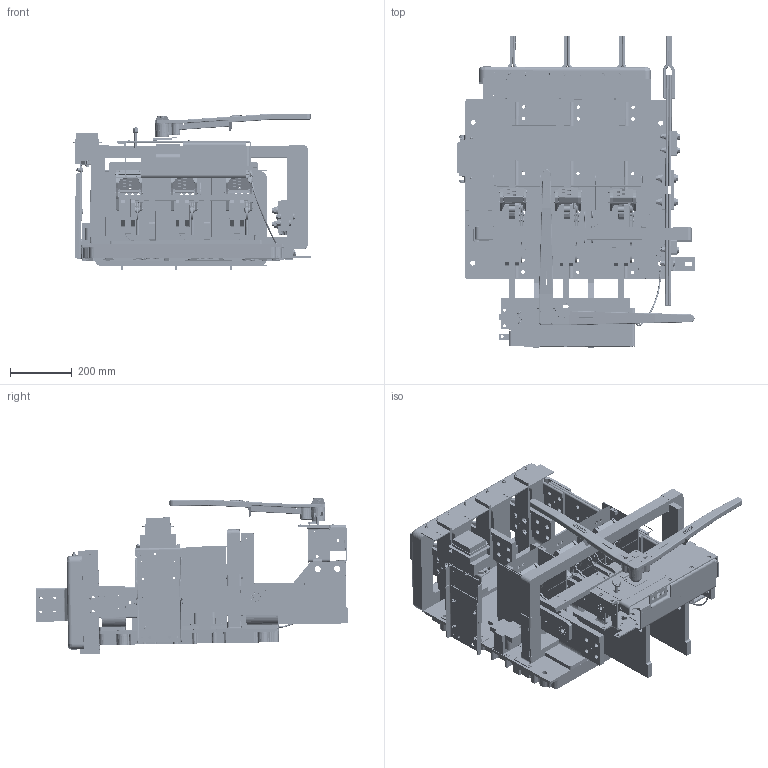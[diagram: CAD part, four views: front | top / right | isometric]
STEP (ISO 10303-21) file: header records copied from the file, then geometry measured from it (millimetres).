
FILE_DESCRIPTION(/* description */ (''),/* implementation_level */ '2;1');
FILE_NAME(/* name */ 'H:\switches\3d-templates\catalog-switches-iges-files\CATALOG-VLB3412AG60.stp',/* time_stamp */ '2022-03-16T10:58:04-05:00',/* author */ ('MKingston'),/* organization */ (''),/* preprocessor_version */ 'ST-DEVELOPER v18.1',/* originating_system */ 'Autodesk Inventor 2022',/* authorisation */ '');
FILE_SCHEMA (('AUTOMOTIVE_DESIGN { 1 0 10303 214 3 1 1 }'));
Products named in the file (113): vlb3412; 277-bf; 671-EBX; 671-CBX; 671-dbx; vlb-interpole-assy; vlb-interpole-right-side-assy; 256-b; 178-b; 178-c; 256-d; CATALOG-3000amp-blade-assy; 671-A; 671-B; 69-gc3; 67-fc3; 70-M; 67-j; ANSI/ASM B18.1.1 - 1/4 x 3/4; ANSI/ASM B18.1.1 - 3/16 x 11/16; 235-b; CATALOG-59-qd-arc-chute-assy; 50-ql; 50-qr; 59-qd-f; 363-a; 363-b; 59-QG; Bolted Connection; ANSI B18.6.3 - 8 - 32 x 3 1/2 SR HMS; ANSI B18.2.2 - 8 - 32, HMSNI; Bolted Connection_1; ANSI B18.6.3 - 8 - 32 x 1/2 SR HMS; Bolted Connection_2; ANSI B18.6.3 - 8 - 32 x 5/8 SR HMS; Bolted Connection_3; Bolted Connection_4; Unbrako - 1/4 x 1 1/2(2); 230-a; 246-f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
Assembly tree (238 placements, depth 4):
  vlb3412
    277-bf
    671-EBX  x3
    671-CBX  x3
    671-dbx  x3
    vlb-interpole-right-side-assy  x2
      256-b
      178-b
      178-c
    vlb-interpole-assy  x2
      256-b
      178-b
      178-c
    256-d
    CATALOG-3000amp-blade-assy  x3
      671-A
      671-B
      69-gc3
      67-fc3
      67-j
      70-M
      ANSI/ASM B18.1.1 - 1/4 x 3/4
      ANSI/ASM B18.1.1 - 3/16 x 11/16
    235-b
    CATALOG-59-qd-arc-chute-assy  x3
      50-ql
      50-qr
      59-qd-f
      363-a
      363-b
      59-QG
      Bolted Connection
        ANSI B18.6.3 - 8 - 32 x 3 1/2 SR HMS  x2
        ANSI B18.2.2 - 8 - 32, HMSNI  x2
      Bolted Connection_1
        ANSI B18.6.3 - 8 - 32 x 1/2 SR HMS  x2
      Bolted Connection_2
        ANSI B18.6.3 - 8 - 32 x 5/8 SR HMS  x2
      Bolted Connection_3
        Unbrako - 1/4 x 1 1/2(2)
      Bolted Connection_4
        Unbrako - 1/4 x 1 1/2(2)
    230-a
    246-f  x2
    256-c
    221-kpa
    452
    481-a
    bf-gfr-1-mounting-assembly
      277-L1B
      277-l2
      277-l3
      277-l4
      gfr-1
      Bolted Connection_5
        ANSI B18.22.1 - No. 10 - Type A  x4
        ASME B18.21.1 - No. 10. Carbon Steel, ETLWTB(1)  x4
        ANSI B18.6.3 - 10 - 32 x 3/4 SR HMS  x2
        ANSI B18.2.2 - 10 - 32, HMSNI  x2
      Bolted Connection_6
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Bounding box: 776.51 x 1016.79 x 508.97 mm (x, y, z)
Volume: 36006878.3 mm3; surface area: 6700057.8 mm2
Topology: 309 solids, 311 shells, 7899 faces, 19560 edges, 12608 vertices
Faces by surface type: plane 3989, cylinder 2457, cone 1076, torus 186, bspline 163, sphere 28
Full cylindrical faces by diameter (mm): 1.702 x8, 3.175 x4, 3.302 x32, 3.581 x2, 3.683 x8, 3.81 x9, 3.962 x11, 4.089 x4, 4.166 x20, 4.191 x9, 4.293 x9, 4.366 x2, 4.496 x24, 4.572 x9, 4.653 x4, 4.762 x49, 4.775 x8, 4.801 x8, 4.826 x2, 4.902 x14, 4.915 x24, 4.953 x4, 4.978 x15, 5.08 x2, 5.462 x4, 5.537 x5, 5.556 x5, 5.563 x4, 5.791 x6, 6.35 x44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
Entity records: 137700 total; most frequent: CARTESIAN_POINT 33051, DIRECTION 21423, ORIENTED_EDGE 20418, EDGE_CURVE 10220, AXIS2_PLACEMENT_3D 7775, VERTEX_POINT 6618, LINE 5873, VECTOR 5873
